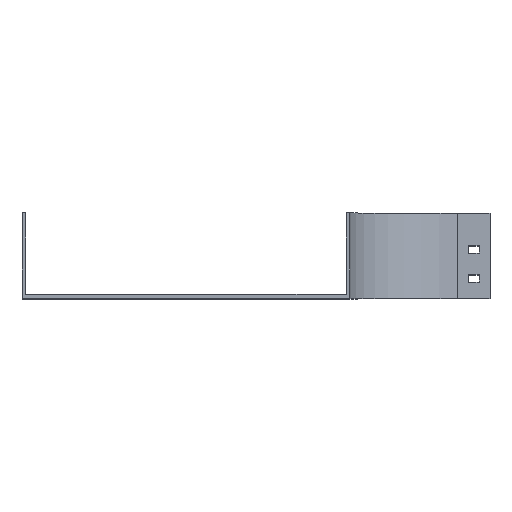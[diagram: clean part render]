
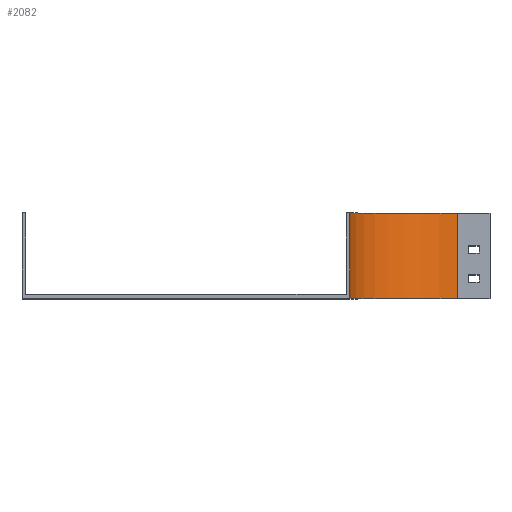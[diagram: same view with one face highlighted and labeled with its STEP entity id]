
A CAD part, top view. The second image highlights one B-rep face of the part: STEP entity #2082.
In plain terms, the highlighted cylindrical face has radius 100 mm (diameter 200 mm), a partial arc.
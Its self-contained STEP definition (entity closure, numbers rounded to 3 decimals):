
#104 = DIRECTION ( 'NONE',  ( 0., -1., 0. ) ) ;
#173 = CARTESIAN_POINT ( 'NONE',  ( -100., 0., 0. ) ) ;
#204 = DIRECTION ( 'NONE',  ( 0., 0., -1. ) ) ;
#332 = ORIENTED_EDGE ( 'NONE', *, *, #760, .T. ) ;
#363 = ORIENTED_EDGE ( 'NONE', *, *, #1628, .F. ) ;
#367 = VECTOR ( 'NONE', #1626, 1000. ) ;
#512 = LINE ( 'NONE', #1820, #1906 ) ;
#523 = ORIENTED_EDGE ( 'NONE', *, *, #619, .T. ) ;
#619 = EDGE_CURVE ( 'NONE', #1474, #1155, #2093, .T. ) ;
#671 = DIRECTION ( 'NONE',  ( 0., -1., 0. ) ) ;
#685 = ORIENTED_EDGE ( 'NONE', *, *, #2159, .F. ) ;
#760 = EDGE_CURVE ( 'NONE', #1155, #2120, #1916, .T. ) ;
#891 = CARTESIAN_POINT ( 'NONE',  ( 0., 0., -100. ) ) ;
#977 = CIRCLE ( 'NONE', #1825, 100. ) ;
#1155 = VERTEX_POINT ( 'NONE', #173 ) ;
#1183 = CARTESIAN_POINT ( 'NONE',  ( -100., 79., 0. ) ) ;
#1301 = DIRECTION ( 'NONE',  ( 0., -1., 0. ) ) ;
#1327 = CARTESIAN_POINT ( 'NONE',  ( 0., 79., -100. ) ) ;
#1474 = VERTEX_POINT ( 'NONE', #2118 ) ;
#1519 = DIRECTION ( 'NONE',  ( 0., 0., -1. ) ) ;
#1559 = AXIS2_PLACEMENT_3D ( 'NONE', #2325, #2337, #204 ) ;
#1626 = DIRECTION ( 'NONE',  ( 0., -1., 0. ) ) ;
#1628 = EDGE_CURVE ( 'NONE', #2250, #2120, #512, .T. ) ;
#1681 = FACE_OUTER_BOUND ( 'NONE', #2537, .T. ) ;
#1820 = CARTESIAN_POINT ( 'NONE',  ( 0., 79., -100. ) ) ;
#1825 = AXIS2_PLACEMENT_3D ( 'NONE', #2586, #671, #1519 ) ;
#1906 = VECTOR ( 'NONE', #104, 1000. ) ;
#1916 = CIRCLE ( 'NONE', #1559, 100. ) ;
#1948 = DIRECTION ( 'NONE',  ( 0., 0., -1. ) ) ;
#2082 = ADVANCED_FACE ( 'NONE', ( #1681 ), #2546, .F. ) ;
#2093 = LINE ( 'NONE', #1183, #367 ) ;
#2118 = CARTESIAN_POINT ( 'NONE',  ( -100., 79., 0. ) ) ;
#2120 = VERTEX_POINT ( 'NONE', #891 ) ;
#2138 = AXIS2_PLACEMENT_3D ( 'NONE', #2559, #1301, #1948 ) ;
#2159 = EDGE_CURVE ( 'NONE', #1474, #2250, #977, .T. ) ;
#2250 = VERTEX_POINT ( 'NONE', #1327 ) ;
#2325 = CARTESIAN_POINT ( 'NONE',  ( 0., 0., 0. ) ) ;
#2337 = DIRECTION ( 'NONE',  ( 0., -1., 0. ) ) ;
#2537 = EDGE_LOOP ( 'NONE', ( #332, #363, #685, #523 ) ) ;
#2546 = CYLINDRICAL_SURFACE ( 'NONE', #2138, 100. ) ;
#2559 = CARTESIAN_POINT ( 'NONE',  ( 0., 79., 0. ) ) ;
#2586 = CARTESIAN_POINT ( 'NONE',  ( 0., 79., 0. ) ) ;
